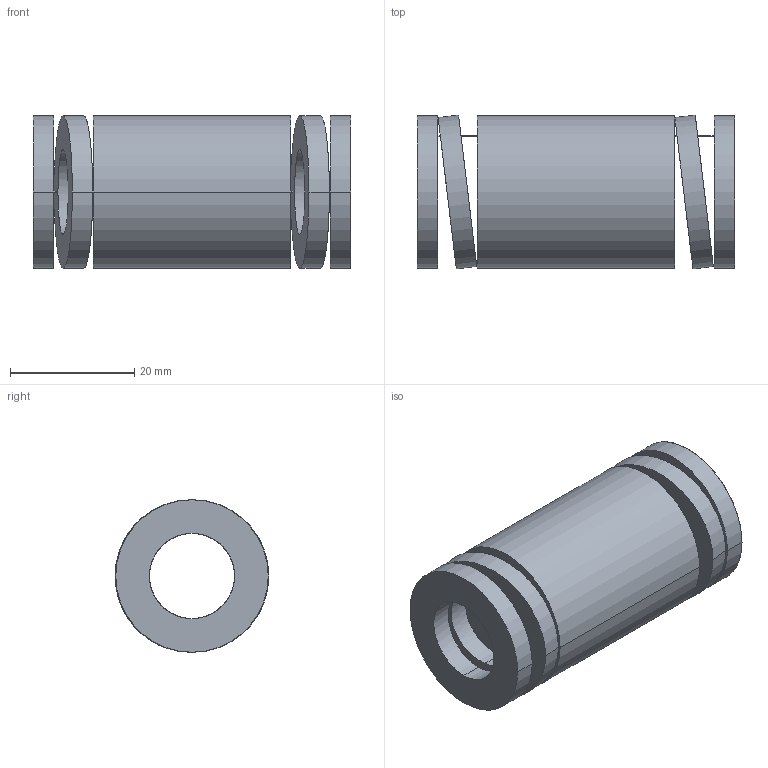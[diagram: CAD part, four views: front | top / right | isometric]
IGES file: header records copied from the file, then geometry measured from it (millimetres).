
Start section: START RECORD GO HERE.
Global section: file name: 392-B25-051.igs; native system: DASSAULT SYSTEMES CATIA V5 R20 - www.3ds.com; preprocessor: CATIA Version 5 Release 20 ; author: Utente; organization: NB04-ASUS; date: 20210813.094937; units: millimetre
Bounding box: 51 x 24.72 x 24.5 mm (x, y, z)
Surface area: 8631.7 mm2 (no closed solid volume)
Topology: 0 solids, 0 shells, 38 faces, 184 edges, 184 vertices
Faces by surface type: revolution 28, plane 10
